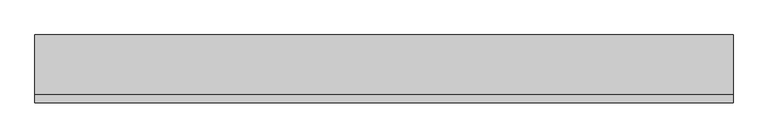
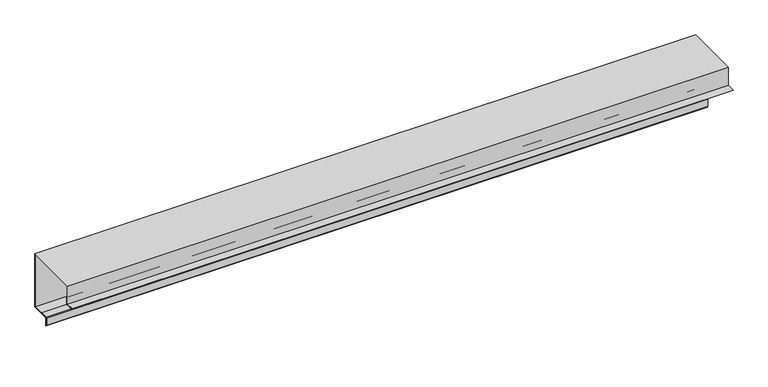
"""IFC4 building model written with IfcOpenShell, lengths in millimetres: proxy geometry, АК2_2 Обрамление наружного угла.dwg : АК2_2 Обрамление наружного угла.dwg."""

from ifc_helpers import new_model, si_unit, point, frame, frame_2d, origin, place, context, project, spatial, polyline, circle_curve, trimmed, segment, composite_curve, outline, extrude, source, transform, mapped, element, save


def generic_models_f85f93ed(model_context):
    return source(origin(), model_context, "Body", "SweptSolid", [
        extrude(outline(composite_curve([segment(polyline([(146.4935367, -142.0048066), (146.4935367, -144.0048066), (123.9935367, -144.0048066)]), True, "CONTINUOUS"), segment(trimmed(circle_curve(frame_2d((123.9935367, -144.5048066)), 0.5), [point((123.9935367, -144.0048066))], [point((123.4935367, -144.5048066))], True, "CARTESIAN"), True, "CONTINUOUS"), segment(polyline([(123.4935367, -144.5048066), (123.4935367, -167.0048066), (121.4935367, -167.0048066), (121.4935367, -144.5048066)]), True, "CONTINUOUS"), segment(trimmed(circle_curve(frame_2d((123.9935367, -144.5048066)), 2.5), [point((121.4935367, -144.5048066))], [point((123.9935367, -142.0048066))], False, "CARTESIAN"), True, "CONTINUOUS"), segment(polyline([(123.9935367, -142.0048066), (146.4935367, -142.0048066)]), True, "CONTINUOUS")], self_intersect=False)), frame((0.0, 0.0, 0.0), z_axis=(1.0, 0.0, 0.0), x_axis=(0.0, 1.0, 0.0)), (0.0, 0.0, 1.0), 1999.9720408),
        extrude(outline(composite_curve([segment(polyline([(15.4951934, -11.0008283), (15.4951934, -33.5008283)]), True, "CONTINUOUS"), segment(trimmed(circle_curve(frame_2d((12.9951934, -33.5008283)), 2.5), [point((15.4951934, -33.5008283))], [point((12.9951934, -36.0008283))], False, "CARTESIAN"), True, "CONTINUOUS"), segment(polyline([(12.9951934, -36.0008283), (-9.5048066, -36.0008283), (-9.5048066, -34.0008283), (12.9951934, -34.0008283)]), True, "CONTINUOUS"), segment(trimmed(circle_curve(frame_2d((12.9951934, -33.5008283)), 0.5), [point((12.9951934, -34.0008283))], [point((13.4951934, -33.5008283))], True, "CARTESIAN"), True, "CONTINUOUS"), segment(polyline([(13.4951934, -33.5008283), (13.4951934, -11.0008283), (15.4951934, -11.0008283)]), True, "CONTINUOUS")], self_intersect=False)), frame((0.0, 0.0, 0.0), z_axis=(1.0, 0.0, 0.0), x_axis=(0.0, 1.0, 0.0)), (0.0, 0.0, 1.0), 1999.9720408),
        extrude(outline(polyline([(182.494365, 25.0), (182.494365, -145.0), (124.494365, -145.0), (124.494365, -170.0), (123.494365, -170.0), (123.494365, -144.0), (181.4951934, -144.0), (181.4951934, 24.0), (13.4951934, 24.0), (13.4951934, -34.0008283), (-12.5048066, -34.0008283), (-12.5048066, -33.0008283), (12.4951934, -33.0008283), (12.4951934, 25.0), (182.494365, 25.0)])), frame((0.0, 0.0, 0.0), z_axis=(1.0, 0.0, 0.0), x_axis=(0.0, 1.0, 0.0)), (0.0, 0.0, 1.0), 1999.9720408),
    ])


if __name__ == "__main__":
    model = new_model("IFC4")
    model_context = context("Model", 3, world=origin())
    ifc_project = project(units=[si_unit("LENGTHUNIT", "METRE", prefix="MILLI")], contexts=[model_context])
    site = spatial("IfcSite", under=ifc_project)
    building = spatial("IfcBuilding", under=site)
    placement = place(None, origin())
    generic_models_shape = generic_models_f85f93ed(model_context)
    element("IfcBuildingElementProxy", 1, Name="АК2_2 Обрамление наружного угла.dwg : АК2_2 Обрамление наружного угла.dwg", ObjectType="АК2_2 Обрамление наружного угла.dwg : АК2_2 Обрамление наружного угла.dwg", at=placement, inside=building, context=model_context, shape_type="MappedRepresentation", body=[
        mapped(generic_models_shape, transform((0.0, 0.0, 0.0), x_axis=(1.0, 0.0, 0.0), y_axis=(0.0, 1.0, 0.0), z_axis=(0.0, 0.0, 1.0))),
    ])
    save(model, "model.ifc")
